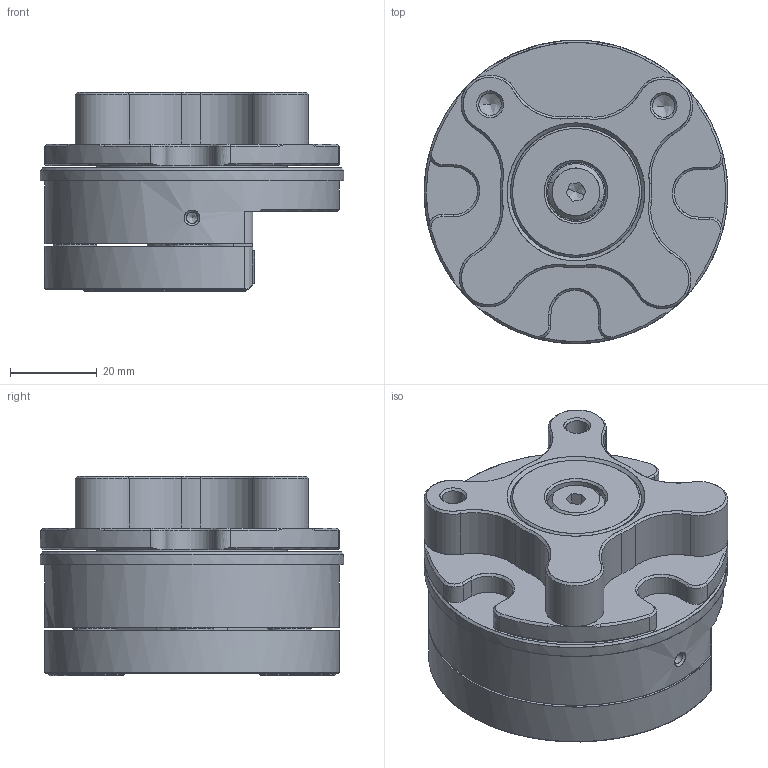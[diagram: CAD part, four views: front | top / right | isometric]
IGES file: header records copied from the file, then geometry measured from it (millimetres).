
Global section: file name: Y:\_LCPD Drawings\13.1 Lightweight Models\9936\LA-9936-0630 MAGNETIC REFERENCE MOUNT\LA-9936-0630 MAGNETIC REFERENCE MOUNT.igs; native system: NX V1926; preprocessor: SIEMENS PLM Software NX 1942; date: 20210318.110546; units: millimetre
Bounding box: 70 x 70 x 46.1 mm (x, y, z)
Surface area: 30721.5 mm2 (no closed solid volume)
Topology: 0 solids, 0 shells, 385 faces, 2605 edges, 2524 vertices
Faces by surface type: bspline 385
